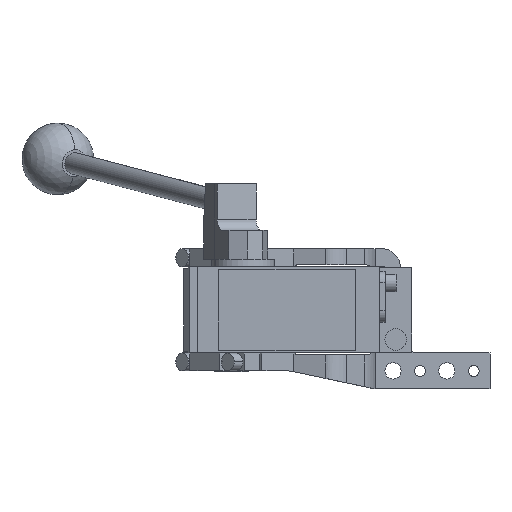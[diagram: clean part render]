
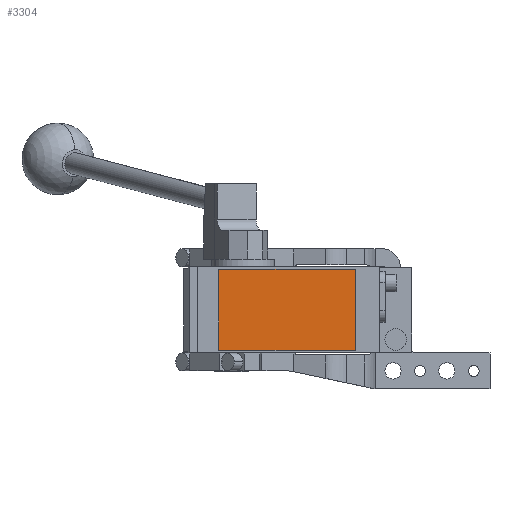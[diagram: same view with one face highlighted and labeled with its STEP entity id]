
A CAD part, front view. The second image highlights one B-rep face of the part: STEP entity #3304.
In plain terms, the highlighted planar face has unit normal (0, -1, 0).
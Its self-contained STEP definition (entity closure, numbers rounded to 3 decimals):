
#96 = CARTESIAN_POINT ( 'NONE',  ( -7., -280.5, 22.5 ) ) ;
#904 = LINE ( 'NONE', #3206, #4158 ) ;
#963 = CARTESIAN_POINT ( 'NONE',  ( 69., -280.5, 22.5 ) ) ;
#1068 = VERTEX_POINT ( 'NONE', #963 ) ;
#1078 = LINE ( 'NONE', #96, #6064 ) ;
#1746 = ORIENTED_EDGE ( 'NONE', *, *, #7363, .T. ) ;
#2035 = AXIS2_PLACEMENT_3D ( 'NONE', #13225, #5275, #7729 ) ;
#2730 = DIRECTION ( 'NONE',  ( -1., 0., 0. ) ) ;
#2832 = VERTEX_POINT ( 'NONE', #3505 ) ;
#3206 = CARTESIAN_POINT ( 'NONE',  ( 69., -280.5, 22.5 ) ) ;
#3304 = ADVANCED_FACE ( 'NONE', ( #12161 ), #8877, .T. ) ;
#3331 = ORIENTED_EDGE ( 'NONE', *, *, #10396, .T. ) ;
#3505 = CARTESIAN_POINT ( 'NONE',  ( -7., -280.5, 22.5 ) ) ;
#3534 = CARTESIAN_POINT ( 'NONE',  ( -7., -280.5, -22.5 ) ) ;
#4158 = VECTOR ( 'NONE', #9200, 1000. ) ;
#4245 = EDGE_LOOP ( 'NONE', ( #3331, #1746, #5869, #7485 ) ) ;
#5275 = DIRECTION ( 'NONE',  ( 0., -1., 0. ) ) ;
#5869 = ORIENTED_EDGE ( 'NONE', *, *, #13536, .T. ) ;
#6064 = VECTOR ( 'NONE', #11615, 1000. ) ;
#6083 = CARTESIAN_POINT ( 'NONE',  ( -7., -280.5, 22.5 ) ) ;
#7137 = VECTOR ( 'NONE', #2730, 1000. ) ;
#7363 = EDGE_CURVE ( 'NONE', #14518, #13348, #13890, .T. ) ;
#7485 = ORIENTED_EDGE ( 'NONE', *, *, #12245, .T. ) ;
#7729 = DIRECTION ( 'NONE',  ( 0., 0., -1. ) ) ;
#7880 = DIRECTION ( 'NONE',  ( 1., 0., 0. ) ) ;
#8877 = PLANE ( 'NONE',  #2035 ) ;
#9200 = DIRECTION ( 'NONE',  ( 0., 0., 1. ) ) ;
#9353 = VECTOR ( 'NONE', #7880, 1000. ) ;
#9696 = LINE ( 'NONE', #6083, #7137 ) ;
#10396 = EDGE_CURVE ( 'NONE', #2832, #14518, #1078, .T. ) ;
#11615 = DIRECTION ( 'NONE',  ( 0., 0., -1. ) ) ;
#12161 = FACE_OUTER_BOUND ( 'NONE', #4245, .T. ) ;
#12245 = EDGE_CURVE ( 'NONE', #1068, #2832, #9696, .T. ) ;
#12653 = CARTESIAN_POINT ( 'NONE',  ( -7., -280.5, -22.5 ) ) ;
#13115 = CARTESIAN_POINT ( 'NONE',  ( 69., -280.5, -22.5 ) ) ;
#13225 = CARTESIAN_POINT ( 'NONE',  ( 0., -280.5, 0. ) ) ;
#13348 = VERTEX_POINT ( 'NONE', #13115 ) ;
#13536 = EDGE_CURVE ( 'NONE', #13348, #1068, #904, .T. ) ;
#13890 = LINE ( 'NONE', #3534, #9353 ) ;
#14518 = VERTEX_POINT ( 'NONE', #12653 ) ;
